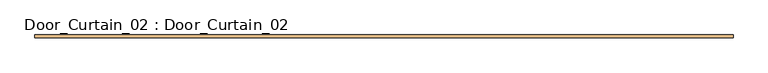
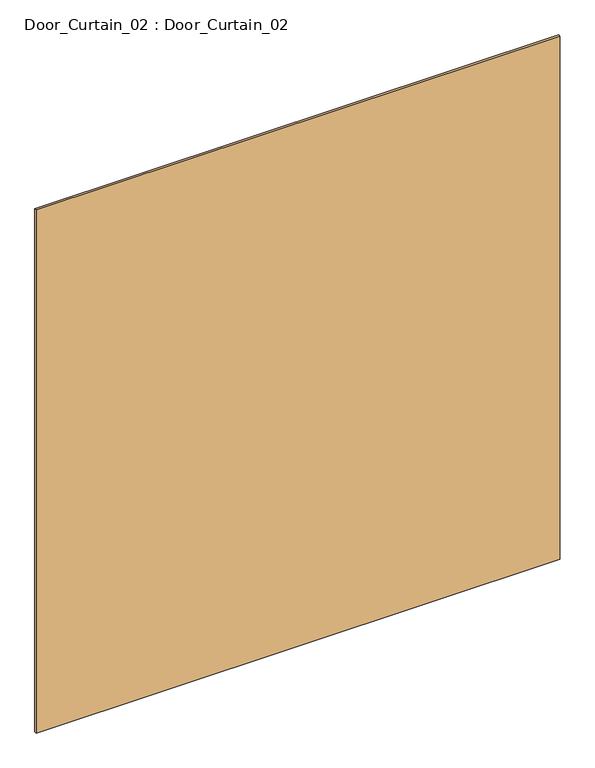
"""IFC4 building model written with IfcOpenShell, lengths in millimetres: door geometry, Door_Curtain_02 : Door_Curtain_02."""

from ifc_helpers import new_model, si_unit, origin, origin_with_axes, place, context, project, spatial, polyline, outline, extrude, source, transform, mapped, element, save


def door_curtain_02_door_curtain_02_b25e94dd(model_context):
    return source(origin(), model_context, "Body", "SweptSolid", [
        extrude(outline(polyline([(1550.0, 5.0), (1550.0, -7.7), (-1550.0, -7.7), (-1550.0, 5.0), (1550.0, 5.0)])), origin_with_axes(), (0.0, 0.0, 1.0), 3271.3320339),
    ])


if __name__ == "__main__":
    model = new_model("IFC4")
    model_context = context("Model", 3, world=origin())
    ifc_project = project(units=[si_unit("LENGTHUNIT", "METRE", prefix="MILLI")], contexts=[model_context])
    site = spatial("IfcSite", under=ifc_project)
    building = spatial("IfcBuilding", under=site)
    placement = place(None, origin())
    door_curtain_02_door_curtain_02_shape = door_curtain_02_door_curtain_02_b25e94dd(model_context)
    element("IfcDoor", 1, ObjectType="Door_Curtain_02 : Door_Curtain_02", at=placement, inside=building, context=model_context, shape_type="MappedRepresentation", body=[
        mapped(door_curtain_02_door_curtain_02_shape, transform((0.0, 0.0, 0.0), x_axis=(1.0, 0.0, 0.0), y_axis=(0.0, 1.0, 0.0), z_axis=(0.0, 0.0, 1.0))),
    ])
    save(model, "model.ifc")
